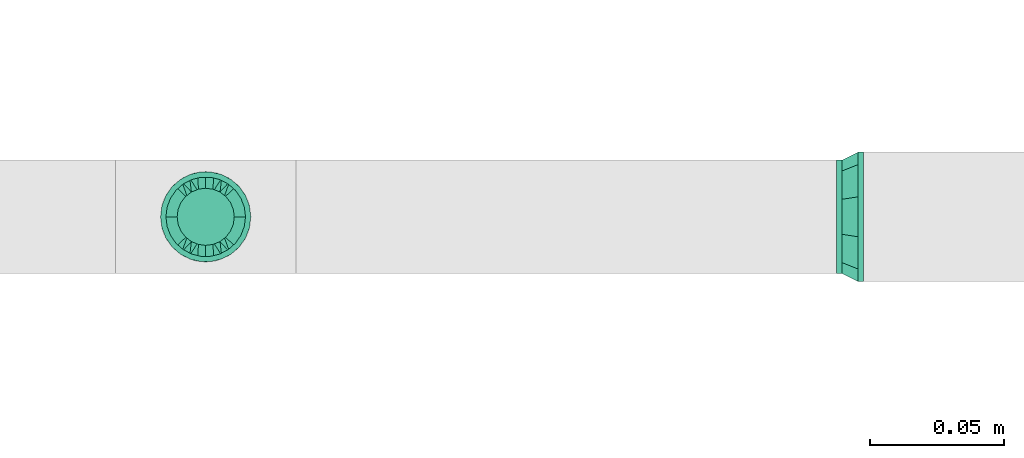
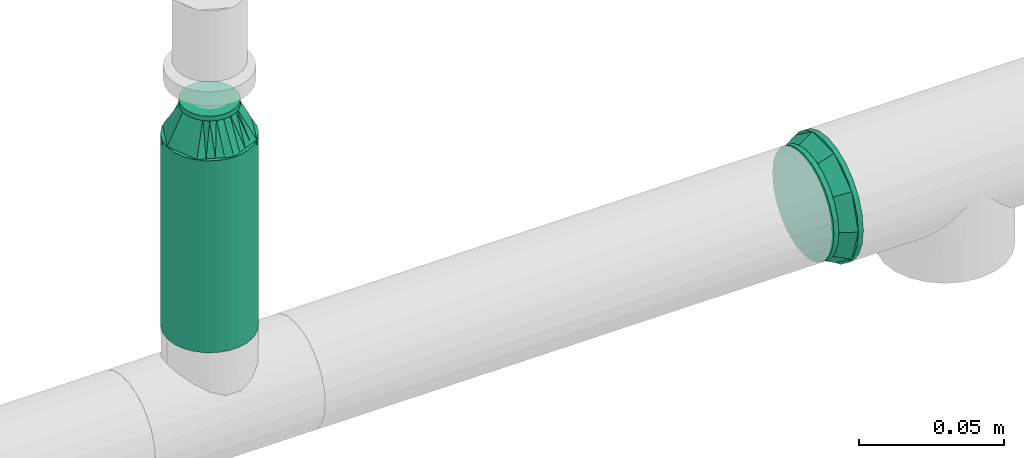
# One storey, part 74 of 94: 2 flow fittings, 1 flow segment.
"""IFC2X3 building model written with IfcOpenShell, lengths in millimetres."""

from ifc_helpers import new_model, entity, si_unit, converted_unit, derived_unit, direction, frame, origin_with_axes, origin_2d_with_axis, place, context, subcontext, project, spatial, hollow_circle, extrude, open_shell, surface_model, source, transform, mapped, type_object, element, save


model = new_model("IFC2X3")

# Units and contexts
model_context = context("Model", 3, precision=0.01, world=frame((0.0, 4.29681676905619e-09, 0.0)), true_north=direction((4.01073788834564e-13, 1.0)))
plan_context = context("Plan", 3, precision=0.01, world=frame((0.0, 4.29681676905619e-09, 0.0)), true_north=direction((4.01073788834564e-13, 1.0)))
body_context = subcontext(model_context, "Body", "Model", "MODEL_VIEW")
ifc_project = project(units=[converted_unit("PLANEANGLEUNIT", "DEGREE", entity("IfcPositiveLengthMeasure", 0.0174532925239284), si_unit("PLANEANGLEUNIT", "RADIAN"), dimensions=[0, 0, 0, 0, 0, 0, 0]), si_unit("AREAUNIT", "SQUARE_METRE"), si_unit("LENGTHUNIT", "METRE", prefix="MILLI"), si_unit("MASSUNIT", "GRAM", prefix="KILO"), si_unit("POWERUNIT", "WATT"), si_unit("PRESSUREUNIT", "PASCAL"), si_unit("FORCEUNIT", "NEWTON", prefix="KILO"), si_unit("ELECTRICCURRENTUNIT", "AMPERE"), si_unit("THERMODYNAMICTEMPERATUREUNIT", "DEGREE_CELSIUS"), si_unit("TIMEUNIT", "SECOND"), si_unit("VOLUMEUNIT", "CUBIC_METRE"), derived_unit("LINEARVELOCITYUNIT", [(si_unit("LENGTHUNIT", "METRE"), 1), (si_unit("TIMEUNIT", "SECOND"), -1)]), derived_unit("VOLUMETRICFLOWRATEUNIT", [(si_unit("VOLUMEUNIT", "CUBIC_METRE"), 1), (si_unit("TIMEUNIT", "SECOND"), -1)]), derived_unit("THERMALTRANSMITTANCEUNIT", [(si_unit("POWERUNIT", "WATT"), 1), (si_unit("THERMODYNAMICTEMPERATUREUNIT", "KELVIN"), -1), (si_unit("AREAUNIT", "SQUARE_METRE"), -1)])], contexts=[model_context, plan_context])

# Site, building, storey
site_placement = place(None, frame((0.0, -4.29681676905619e-09, 0.0), z_axis=(0.0, 0.0, 1.0), x_axis=(1.0, 0.0, 0.0)))
site = spatial("IfcSite", under=ifc_project, at=site_placement, CompositionType="ELEMENT")
building_placement = place(site_placement, frame((0.0, 4.29681676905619e-09, 0.0), z_axis=(0.0, 0.0, 1.0), x_axis=(1.0, 0.0, 0.0)))
building = spatial("IfcBuilding", under=site, at=building_placement, Name="mc-building", CompositionType="ELEMENT")
storey_placement = place(building_placement, frame((0.0, 0.0, 200300.0), z_axis=(0.0, 0.0, 1.0), x_axis=(1.0, 0.0, 0.0)))
storey = spatial("IfcBuildingStorey", under=building, at=storey_placement, Name="Nivå C", CompositionType="ELEMENT", Elevation=200300.0)

# Flow fittings
pipe_fitting_type = type_object("IfcPipeFittingType", Name="magi_pipe_fe_reducer_centric_short_NOR", PredefinedType="TRANSITION")
shared_shape_1 = source(origin_with_axes(), body_context, "Body", "SurfaceModel", [
    surface_model("IfcShellBasedSurfaceModel", [(14.4, 5.35, -9.26647), (14.4, 0.0, -10.7), (14.4, 2.76936, -10.33541), (14.4, 10.33541, -2.76936), (14.4, 7.56604, -7.56604), (14.4, -10.33541, -2.76936), (14.4, 9.26647, -5.35), (14.4, 0.0, 10.7), (14.4, -5.35, -9.26647), (14.4, -2.76936, -10.33541), (14.4, -7.56604, -7.56604), (14.4, -9.26647, -5.35), (14.4, 10.7, 0.0), (14.4, 10.33541, 2.76936), (14.4, 9.26647, 5.35), (14.4, 7.56604, 7.56604), (14.4, 2.76936, 10.33541), (14.4, 5.35, 9.26647), (14.4, -10.33541, 2.76936), (14.4, -7.56604, 7.56604), (14.4, -9.26647, 5.35), (14.4, -10.7, 0.0), (14.4, -2.76936, 10.33541), (14.4, -5.35, 9.26647), (12.4, 2.76936, 10.33541), (12.4, -10.33541, -2.76936), (12.4, 0.0, 10.7), (12.4, 5.35, 9.26647), (12.4, 7.56604, 7.56604), (12.4, 9.26647, 5.35), (12.4, 10.33541, 2.76936), (12.4, -10.33541, 2.76936), (12.4, -2.76936, 10.33541), (12.4, -7.56604, 7.56604), (12.4, -5.35, 9.26647), (12.4, -9.26647, 5.35), (12.4, -10.7, 0.0), (12.4, 10.33541, -2.76936), (12.4, 5.35, -9.26647), (12.4, 9.26647, -5.35), (12.4, 7.56604, -7.56604), (12.4, 2.76936, -10.33541), (12.4, -9.26647, -5.35), (12.4, -5.35, -9.26647), (12.4, -7.56604, -7.56604), (12.4, 0.0, -10.7), (12.4, -2.76936, -10.33541), (12.4, 10.7, 0.0), (-2.0, 11.9501, 11.9501), (-2.0, 0.0, 16.9), (-2.0, 4.37404, 16.32415), (-2.0, 8.45, 14.63583), (-2.0, 14.63583, 8.45), (-2.0, 16.32415, 4.37404), (-2.0, -16.32415, 4.37404), (-2.0, -8.45, 14.63583), (-2.0, -14.63583, 8.45), (-2.0, -11.9501, 11.9501), (-2.0, -4.37404, 16.32415), (-2.0, -16.32415, -4.37404), (-2.0, -16.9, 0.0), (-2.0, -8.45, -14.63583), (-2.0, 16.32415, -4.37404), (-2.0, 11.9501, -11.9501), (-2.0, 14.63583, -8.45), (-2.0, 8.45, -14.63583), (-2.0, 4.37404, -16.32415), (-2.0, 0.0, -16.9), (-2.0, -11.9501, -11.9501), (-2.0, -14.63583, -8.45), (-2.0, -4.37404, -16.32415), (-2.0, 16.9, 0.0), (0.0, 4.37404, -16.32415), (0.0, 8.45, -14.63583), (0.0, 11.9501, -11.9501), (0.0, 0.0, -16.9), (0.0, 16.32415, -4.37404), (0.0, 16.32415, 4.37404), (0.0, 14.63583, -8.45), (0.0, -8.45, -14.63583), (0.0, -4.37404, -16.32415), (0.0, -11.9501, -11.9501), (0.0, -16.32415, -4.37404), (0.0, -14.63583, -8.45), (0.0, -16.32415, 4.37404), (0.0, 16.9, 0.0), (0.0, 14.63583, 8.45), (0.0, 11.9501, 11.9501), (0.0, 4.37404, 16.32415), (0.0, 8.45, 14.63583), (0.0, 0.0, 16.9), (0.0, -14.63583, 8.45), (0.0, -16.9, 0.0), (0.0, -8.45, 14.63583), (0.0, -11.9501, 11.9501), (0.0, -4.37404, 16.32415), (12.4, 9.3625, -2.31662), (0.0, 14.42505, -5.97505), (0.0, 15.66253, -2.98753), (12.4, -6.6875, -6.94985), (0.0, -13.18758, -8.96258), (0.0, 2.98753, -15.66253), (12.4, 0.0, -9.26647), (12.4, 6.6875, -6.94985), (0.0, 8.96258, -13.18758), (12.4, -9.3625, -2.31662), (0.0, -15.66253, -2.98753), (0.0, -14.42505, -5.97505), (0.0, 5.97505, -14.42505), (0.0, -2.98753, -15.66253), (0.0, -8.96258, -13.18758), (0.0, 13.18758, -8.96258), (12.4, 8.025, -4.63324), (12.4, -2.675, -9.26647), (12.4, 2.675, -9.26647), (0.0, -5.97505, -14.42505), (12.4, -8.025, -4.63324), (12.4, -9.3625, 2.31662), (0.0, -14.42505, 5.97505), (0.0, -15.66253, 2.98753), (12.4, 6.6875, 6.94985), (0.0, 13.18758, 8.96258), (0.0, -2.98753, 15.66253), (12.4, 0.0, 9.26647), (12.4, -6.6875, 6.94985), (0.0, -8.96258, 13.18758), (12.4, 9.3625, 2.31662), (0.0, 15.66253, 2.98753), (0.0, 14.42505, 5.97505), (0.0, -5.97505, 14.42505), (0.0, 2.98753, 15.66253), (0.0, 8.96258, 13.18758), (0.0, -13.18758, 8.96258), (12.4, -8.025, 4.63324), (12.4, 2.675, 9.26647), (12.4, -2.675, 9.26647), (0.0, 5.97505, 14.42505), (12.4, 8.025, 4.63324)], [open_shell([[[0, 1, 2]], [[3, 0, 4]], [[5, 0, 3]], [[3, 4, 6]], [[7, 5, 3]], [[1, 8, 9]], [[1, 0, 8]], [[10, 5, 11]], [[5, 10, 8]], [[0, 5, 8]], [[3, 12, 13]], [[13, 14, 15]], [[13, 15, 16]], [[7, 3, 16]], [[16, 15, 17]], [[7, 18, 5]], [[18, 19, 20]], [[21, 5, 18]], [[19, 22, 23]], [[22, 19, 18]], [[7, 22, 18]], [[13, 16, 3]], [[24, 25, 26]], [[27, 25, 24]], [[28, 29, 30]], [[28, 25, 27]], [[31, 26, 25]], [[32, 33, 34]], [[33, 32, 31]], [[33, 31, 35]], [[32, 26, 31]], [[31, 25, 36]], [[30, 37, 28]], [[25, 28, 37]], [[38, 37, 39]], [[37, 38, 25]], [[38, 39, 40]], [[41, 25, 38]], [[42, 43, 44]], [[43, 42, 25]], [[43, 45, 46]], [[43, 25, 41]], [[41, 45, 43]], [[37, 30, 47]], [[25, 5, 36]], [[42, 11, 25]], [[8, 44, 43]], [[42, 44, 10]], [[9, 43, 46]], [[25, 11, 5]], [[5, 21, 36]], [[9, 8, 43]], [[10, 44, 8]], [[10, 11, 42]], [[1, 9, 46]], [[46, 45, 1]], [[41, 2, 45]], [[38, 0, 41]], [[6, 40, 39]], [[38, 40, 4]], [[3, 39, 37]], [[38, 4, 0]], [[0, 2, 41]], [[12, 3, 37]], [[6, 39, 3]], [[6, 4, 40]], [[47, 12, 37]], [[45, 2, 1]], [[30, 13, 47]], [[29, 14, 30]], [[17, 28, 27]], [[29, 28, 15]], [[16, 27, 24]], [[30, 14, 13]], [[13, 12, 47]], [[16, 17, 27]], [[15, 28, 17]], [[15, 14, 29]], [[7, 16, 24]], [[24, 26, 7]], [[32, 22, 26]], [[34, 23, 32]], [[20, 33, 35]], [[34, 33, 19]], [[18, 35, 31]], [[34, 19, 23]], [[23, 22, 32]], [[21, 18, 31]], [[20, 35, 18]], [[20, 19, 33]], [[36, 21, 31]], [[26, 22, 7]], [[48, 49, 50]], [[48, 50, 51]], [[48, 52, 53]], [[48, 53, 49]], [[49, 53, 54]], [[55, 56, 57]], [[55, 58, 49]], [[56, 55, 49]], [[49, 54, 56]], [[54, 59, 60]], [[54, 53, 61]], [[53, 62, 63]], [[63, 62, 64]], [[63, 65, 66]], [[61, 53, 63]], [[67, 63, 66]], [[59, 68, 69]], [[68, 59, 61]], [[61, 67, 70]], [[59, 54, 61]], [[63, 67, 61]], [[53, 71, 62]], [[72, 73, 74]], [[75, 72, 74]], [[74, 76, 77]], [[76, 74, 78]], [[74, 77, 79]], [[75, 79, 80]], [[75, 74, 79]], [[81, 82, 83]], [[82, 81, 79]], [[79, 84, 82]], [[77, 76, 85]], [[77, 86, 87]], [[77, 87, 88]], [[88, 84, 79]], [[88, 87, 89]], [[84, 88, 90]], [[90, 91, 84]], [[92, 82, 84]], [[91, 93, 94]], [[91, 90, 93]], [[93, 90, 95]], [[79, 77, 88]], [[59, 82, 60]], [[69, 83, 59]], [[79, 68, 61]], [[69, 68, 81]], [[80, 61, 70]], [[59, 83, 82]], [[82, 92, 60]], [[80, 79, 61]], [[81, 68, 79]], [[81, 83, 69]], [[75, 80, 70]], [[70, 67, 75]], [[66, 72, 67]], [[65, 73, 66]], [[78, 63, 64]], [[65, 63, 74]], [[76, 64, 62]], [[65, 74, 73]], [[73, 72, 66]], [[85, 76, 62]], [[78, 64, 76]], [[78, 74, 63]], [[71, 85, 62]], [[67, 72, 75]], [[53, 77, 71]], [[52, 86, 53]], [[89, 48, 51]], [[52, 48, 87]], [[88, 51, 50]], [[53, 86, 77]], [[77, 85, 71]], [[88, 89, 51]], [[87, 48, 89]], [[87, 86, 52]], [[90, 88, 50]], [[50, 49, 90]], [[58, 95, 49]], [[55, 93, 58]], [[91, 57, 56]], [[55, 57, 94]], [[84, 56, 54]], [[55, 94, 93]], [[93, 95, 58]], [[92, 84, 54]], [[91, 56, 84]], [[91, 94, 57]], [[60, 92, 54]], [[49, 95, 90]], [[27, 34, 47]], [[47, 34, 43]], [[43, 38, 47]], [[43, 34, 36]], [[90, 87, 94]], [[92, 94, 87]], [[87, 74, 92]], [[75, 92, 74]], [[81, 92, 75]], [[74, 87, 85]], [[96, 97, 98]], [[81, 99, 100]], [[101, 102, 75]], [[98, 85, 47]], [[74, 103, 104]], [[104, 103, 38]], [[105, 106, 107]], [[38, 108, 104]], [[102, 109, 75]], [[110, 99, 81]], [[47, 96, 98]], [[103, 111, 112]], [[109, 102, 113]], [[36, 92, 106]], [[102, 101, 114]], [[110, 115, 43]], [[96, 112, 97]], [[107, 116, 105]], [[36, 106, 105]], [[113, 115, 109]], [[43, 115, 113]], [[116, 107, 100]], [[108, 38, 114]], [[111, 103, 74]], [[111, 97, 112]], [[99, 110, 43]], [[116, 100, 99]], [[101, 108, 114]], [[117, 118, 119]], [[87, 120, 121]], [[122, 123, 90]], [[119, 92, 36]], [[94, 124, 125]], [[125, 124, 34]], [[126, 127, 128]], [[34, 129, 125]], [[123, 130, 90]], [[131, 120, 87]], [[36, 117, 119]], [[124, 132, 133]], [[130, 123, 134]], [[47, 85, 127]], [[123, 122, 135]], [[131, 136, 27]], [[117, 133, 118]], [[128, 137, 126]], [[47, 127, 126]], [[134, 136, 130]], [[27, 136, 134]], [[137, 128, 121]], [[129, 34, 135]], [[132, 124, 94]], [[132, 118, 133]], [[120, 131, 27]], [[137, 121, 120]], [[122, 129, 135]]])]),
])
flow_fitting_1_placement = place(storey_placement, frame((530502.26879, 413500.1625, 2962.64799999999), z_axis=(0.0, -1.0, 0.0), x_axis=(0.0, 0.0, 1.0)))
element("IfcFlowFitting", 1, at=flow_fitting_1_placement, inside=storey, type_object=pipe_fitting_type, Name="magi_pipe_fe_reducer_centric_short_NOR", context=body_context, shape_type="MappedRepresentation", body=[
    mapped(shared_shape_1, transform((0.0, 0.0, 0.0), scale=1.0)),
])
shared_shape_2 = source(origin_with_axes(), body_context, "Body", "SurfaceModel", [
    surface_model("IfcShellBasedSurfaceModel", [(8.0, 10.6, -18.35974), (8.0, 0.0, -21.2), (8.0, 5.48696, -20.47763), (8.0, 20.47763, -5.48696), (8.0, 14.99066, -14.99066), (8.0, -21.2, 0.0), (8.0, -14.99066, -14.99066), (8.0, 18.35974, -10.6), (8.0, -10.6, -18.35974), (8.0, -5.48696, -20.47763), (8.0, -18.35974, -10.6), (8.0, -20.47763, -5.48696), (8.0, -18.35974, 10.6), (8.0, 21.2, 0.0), (8.0, 20.47763, 5.48696), (8.0, 18.35974, 10.6), (8.0, 14.99066, 14.99066), (8.0, 0.0, 21.2), (8.0, 10.6, 18.35974), (8.0, 5.48696, 20.47763), (8.0, -14.99066, 14.99066), (8.0, -20.47763, 5.48696), (8.0, -5.48696, 20.47763), (8.0, -10.6, 18.35974), (6.0, 0.0, 21.2), (6.0, 5.48696, 20.47763), (6.0, 10.6, 18.35974), (6.0, 14.99066, 14.99066), (6.0, 18.35974, 10.6), (6.0, 20.47763, 5.48696), (6.0, -21.2, 0.0), (6.0, -14.99066, -14.99066), (6.0, -5.48696, 20.47763), (6.0, -14.99066, 14.99066), (6.0, -10.6, 18.35974), (6.0, -18.35974, 10.6), (6.0, -20.47763, 5.48696), (6.0, 20.47763, -5.48696), (6.0, 10.6, -18.35974), (6.0, 14.99066, -14.99066), (6.0, 18.35974, -10.6), (6.0, 5.48696, -20.47763), (6.0, 0.0, -21.2), (6.0, -18.35974, -10.6), (6.0, -20.47763, -5.48696), (6.0, -10.6, -18.35974), (6.0, -5.48696, -20.47763), (6.0, 21.2, 0.0), (-2.0, 0.0, 24.2), (-2.0, 6.26342, 23.37541), (-2.0, 12.1, 20.95781), (-2.0, 17.11198, 17.11198), (-2.0, 24.2, 0.0), (-2.0, 20.95781, 12.1), (-2.0, -23.37541, 6.26342), (-2.0, -17.11198, -17.11198), (-2.0, -6.26342, 23.37541), (-2.0, -17.11198, 17.11198), (-2.0, -12.1, 20.95781), (-2.0, -20.95781, 12.1), (-2.0, -24.2, 0.0), (-2.0, 23.37541, 6.26342), (-2.0, 23.37541, -6.26342), (-2.0, 6.26342, -23.37541), (-2.0, 17.11198, -17.11198), (-2.0, 20.95781, -12.1), (-2.0, 12.1, -20.95781), (-2.0, -23.37541, -6.26342), (-2.0, -20.95781, -12.1), (-2.0, -6.26342, -23.37541), (-2.0, -12.1, -20.95781), (-2.0, 0.0, -24.2), (0.0, 24.2, 0.0), (0.0, 6.26342, -23.37541), (0.0, 12.1, -20.95781), (0.0, 23.37541, -6.26342), (0.0, 17.11198, -17.11198), (0.0, 20.95781, -12.1), (0.0, -24.2, 0.0), (0.0, -12.1, -20.95781), (0.0, -6.26342, -23.37541), (0.0, 0.0, -24.2), (0.0, -17.11198, -17.11198), (0.0, -23.37541, -6.26342), (0.0, -20.95781, -12.1), (0.0, 20.95781, 12.1), (0.0, 17.11198, 17.11198), (0.0, 12.1, 20.95781), (0.0, 6.26342, 23.37541), (0.0, 0.0, 24.2), (0.0, -23.37541, 6.26342), (0.0, -17.11198, 17.11198), (0.0, -20.95781, 12.1), (0.0, -6.26342, 23.37541), (0.0, -12.1, 20.95781), (0.0, 23.37541, 6.26342), (6.0, -6.55116, 20.1624), (6.0, -17.15116, 12.46105), (6.0, 17.15116, 12.46105), (6.0, 6.55116, 20.1624), (6.0, -6.55116, -20.1624), (6.0, -17.15116, -12.46105), (6.0, 6.55116, -20.1624), (6.0, 17.15116, -12.46105), (0.0, 7.47821, 23.01557), (0.0, 19.57821, 14.2244), (0.0, -7.47821, 23.01557), (0.0, -19.57821, 14.2244), (0.0, 7.47821, -23.01557), (0.0, 19.57821, -14.2244), (0.0, -7.47821, -23.01557), (0.0, -19.57821, -14.2244), (6.0, 11.85116, -16.31172), (0.0, 13.52821, -18.61999), (0.0, 21.8891, -7.1122), (6.0, 19.17558, -6.23052), (0.0, -22.51537, -5.18476), (6.0, 0.0, -20.1624), (0.0, 0.0, -23.01557), (6.0, -19.17558, -6.23052), (0.0, -13.52821, -18.61999), (6.0, -11.85116, -16.31172), (0.0, -21.04679, -9.70458), (6.0, -11.85116, 16.31172), (0.0, -13.52821, 18.61999), (0.0, -21.8891, 7.1122), (6.0, -19.17558, 6.23052), (0.0, 22.51537, 5.18476), (6.0, 0.0, 20.1624), (0.0, 0.0, 23.01557), (6.0, 19.17558, 6.23052), (0.0, 13.52821, 18.61999), (6.0, 11.85116, 16.31172), (0.0, 21.04679, 9.70458)], [open_shell([[[0, 1, 2]], [[3, 0, 4]], [[5, 6, 0]], [[3, 4, 7]], [[3, 5, 0]], [[1, 8, 9]], [[1, 0, 8]], [[10, 5, 11]], [[8, 0, 6]], [[10, 6, 5]], [[12, 3, 13]], [[14, 15, 16]], [[14, 16, 17]], [[18, 19, 17]], [[18, 17, 16]], [[14, 17, 20]], [[5, 12, 21]], [[3, 12, 5]], [[20, 22, 23]], [[12, 14, 20]], [[17, 22, 20]], [[12, 13, 14]], [[24, 25, 26]], [[24, 26, 27]], [[27, 28, 29]], [[27, 29, 24]], [[30, 24, 31]], [[32, 33, 34]], [[32, 24, 33]], [[35, 30, 36]], [[33, 24, 35]], [[24, 30, 35]], [[24, 29, 31]], [[29, 37, 38]], [[39, 37, 40]], [[31, 29, 38]], [[38, 37, 39]], [[41, 42, 38]], [[30, 43, 44]], [[31, 43, 30]], [[45, 42, 46]], [[45, 31, 38]], [[42, 45, 38]], [[37, 29, 47]], [[44, 11, 30]], [[43, 10, 44]], [[8, 31, 45]], [[43, 31, 6]], [[9, 45, 46]], [[44, 10, 11]], [[11, 5, 30]], [[9, 8, 45]], [[6, 31, 8]], [[6, 10, 43]], [[1, 9, 46]], [[46, 42, 1]], [[41, 2, 42]], [[38, 0, 41]], [[7, 39, 40]], [[38, 39, 4]], [[3, 40, 37]], [[38, 4, 0]], [[0, 2, 41]], [[13, 3, 37]], [[7, 40, 3]], [[7, 4, 39]], [[47, 13, 37]], [[42, 2, 1]], [[29, 14, 47]], [[28, 15, 29]], [[18, 27, 26]], [[28, 27, 16]], [[19, 26, 25]], [[29, 15, 14]], [[14, 13, 47]], [[19, 18, 26]], [[16, 27, 18]], [[16, 15, 28]], [[17, 19, 25]], [[25, 24, 17]], [[32, 22, 24]], [[34, 23, 32]], [[12, 33, 35]], [[34, 33, 20]], [[21, 35, 36]], [[34, 20, 23]], [[23, 22, 32]], [[5, 21, 36]], [[12, 35, 21]], [[12, 20, 33]], [[30, 5, 36]], [[24, 22, 17]], [[48, 49, 50]], [[48, 50, 51]], [[52, 51, 53]], [[54, 48, 55]], [[48, 51, 55]], [[56, 57, 58]], [[56, 48, 57]], [[57, 54, 59]], [[48, 54, 57]], [[54, 55, 60]], [[52, 53, 61]], [[51, 62, 63]], [[64, 62, 65]], [[66, 63, 62]], [[66, 62, 64]], [[63, 55, 51]], [[67, 55, 68]], [[60, 55, 67]], [[63, 69, 70]], [[70, 55, 63]], [[69, 63, 71]], [[62, 51, 52]], [[72, 73, 74]], [[75, 74, 76]], [[75, 72, 74]], [[75, 76, 77]], [[73, 78, 79]], [[73, 80, 81]], [[73, 79, 80]], [[82, 83, 84]], [[82, 79, 78]], [[82, 78, 83]], [[73, 72, 85]], [[85, 86, 73]], [[73, 86, 78]], [[87, 88, 89]], [[87, 89, 86]], [[78, 86, 89]], [[90, 91, 92]], [[93, 90, 78]], [[91, 93, 94]], [[93, 91, 90]], [[78, 89, 93]], [[72, 95, 85]], [[67, 83, 60]], [[68, 84, 67]], [[79, 55, 70]], [[68, 55, 82]], [[80, 70, 69]], [[67, 84, 83]], [[83, 78, 60]], [[80, 79, 70]], [[82, 55, 79]], [[82, 84, 68]], [[81, 80, 69]], [[69, 71, 81]], [[63, 73, 71]], [[66, 74, 63]], [[77, 64, 65]], [[66, 64, 76]], [[75, 65, 62]], [[66, 76, 74]], [[74, 73, 63]], [[72, 75, 62]], [[77, 65, 75]], [[77, 76, 64]], [[52, 72, 62]], [[71, 73, 81]], [[61, 95, 52]], [[53, 85, 61]], [[87, 51, 50]], [[53, 51, 86]], [[88, 50, 49]], [[61, 85, 95]], [[95, 72, 52]], [[88, 87, 50]], [[86, 51, 87]], [[86, 85, 53]], [[89, 88, 49]], [[49, 48, 89]], [[56, 93, 48]], [[58, 94, 56]], [[92, 57, 59]], [[58, 57, 91]], [[90, 59, 54]], [[58, 91, 94]], [[94, 93, 56]], [[78, 90, 54]], [[92, 59, 90]], [[92, 91, 57]], [[60, 78, 54]], [[48, 93, 89]], [[96, 97, 98]], [[96, 98, 99]], [[98, 97, 47]], [[97, 100, 47]], [[97, 101, 100]], [[102, 103, 47]], [[47, 100, 102]], [[101, 97, 30]], [[104, 105, 106]], [[105, 107, 106]], [[107, 105, 78]], [[105, 108, 78]], [[109, 108, 105]], [[78, 110, 111]], [[78, 108, 110]], [[105, 72, 109]], [[109, 103, 112]], [[102, 113, 112]], [[113, 102, 108]], [[114, 115, 103]], [[47, 115, 72]], [[113, 109, 112]], [[30, 78, 116]], [[108, 117, 118]], [[118, 117, 100]], [[100, 110, 118]], [[103, 109, 114]], [[72, 115, 114]], [[116, 119, 30]], [[120, 121, 101]], [[100, 121, 110]], [[119, 122, 101]], [[110, 121, 120]], [[101, 111, 120]], [[119, 116, 122]], [[102, 117, 108]], [[122, 111, 101]], [[107, 97, 123]], [[96, 124, 123]], [[124, 96, 106]], [[125, 126, 97]], [[30, 126, 78]], [[124, 107, 123]], [[47, 72, 127]], [[106, 128, 129]], [[129, 128, 99]], [[99, 104, 129]], [[97, 107, 125]], [[78, 126, 125]], [[127, 130, 47]], [[131, 132, 98]], [[99, 132, 104]], [[130, 133, 98]], [[104, 132, 131]], [[98, 105, 131]], [[130, 127, 133]], [[96, 128, 106]], [[133, 105, 98]]])]),
])
flow_fitting_2_placement = place(storey_placement, frame((530746.53912, 413500.1625, 2850.0), z_axis=(0.0, 0.0, 1.0), x_axis=(-1.0, 0.0, 0.0)))
element("IfcFlowFitting", 2, at=flow_fitting_2_placement, inside=storey, type_object=pipe_fitting_type, Name="magi_pipe_fe_reducer_centric_short_NOR", context=body_context, shape_type="MappedRepresentation", body=[
    mapped(shared_shape_2, transform((0.0, 0.0, 0.0), scale=1.0)),
])

# Flow segment
pipe_segment_type = type_object("IfcPipeSegmentType", Name="Stålrør normaltykke", PredefinedType="RIGIDSEGMENT")
shared_shape_3 = source(origin_with_axes(), body_context, "Body", "SweptSolid", [
    extrude(hollow_circle(Radius=16.9, WallThickness=2.0, at=origin_2d_with_axis()), frame((0.0, 0.0, 0.0), z_axis=(1.0, 0.0, 0.0), x_axis=(0.0, 1.0, 0.0)), (0.0, 0.0, 1.0), 80.8),
])
flow_segment_placement = place(storey_placement, frame((530502.26879, 413500.1625, 2881.79999999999), z_axis=(0.0, 1.0, 0.0), x_axis=(0.0, 0.0, 1.0)))
element("IfcFlowSegment", 3, at=flow_segment_placement, inside=storey, type_object=pipe_segment_type, Name="Stålrør normaltykke", context=body_context, shape_type="MappedRepresentation", body=[
    mapped(shared_shape_3, transform((0.0, 0.0, 0.0), scale=1.0)),
])

save(model, "model.ifc")
